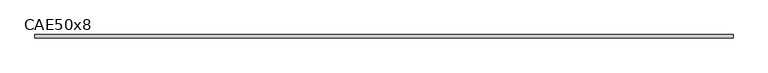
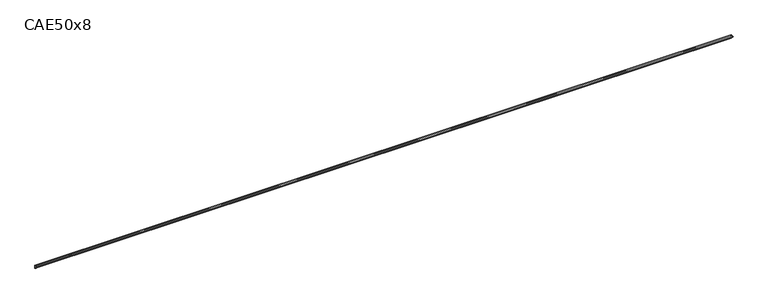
"""IFC4 building model written with IfcOpenShell, lengths in millimetres: beam geometry, L-Cornières : CAE50x8."""

from ifc_helpers import new_model, si_unit, point, frame, frame_2d, origin, place, context, project, spatial, polyline, circle_curve, trimmed, segment, composite_curve, outline, extrude, source, transform, mapped, element, save


def cae50x8_410e40a7(model_context):
    return source(origin(), model_context, "Body", "SweptSolid", [
        extrude(outline(composite_curve([segment(polyline([(15.2, 15.2), (15.2, -34.8)]), True, "CONTINUOUS"), segment(trimmed(circle_curve(frame_2d((15.2, -26.8)), 8.0), [point((15.2, -34.8))], [point((7.2, -26.8))], False, "CARTESIAN"), True, "CONTINUOUS"), segment(polyline([(7.2, -26.8), (7.2, -0.8)]), True, "CONTINUOUS"), segment(trimmed(circle_curve(frame_2d((-0.8, -0.8)), 8.0), [point((7.2, -0.8))], [point((-0.8, 7.2))], True, "CARTESIAN"), True, "CONTINUOUS"), segment(polyline([(-0.8, 7.2), (-26.8, 7.2)]), True, "CONTINUOUS"), segment(trimmed(circle_curve(frame_2d((-26.8, 15.2)), 8.0), [point((-26.8, 7.2))], [point((-34.8, 15.2))], False, "CARTESIAN"), True, "CONTINUOUS"), segment(polyline([(-34.8, 15.2), (15.2, 15.2)]), True, "CONTINUOUS")], self_intersect=False)), frame((-5393.0, 0.0, 0.0), z_axis=(1.0, 0.0, 0.0), x_axis=(0.0, 1.0, 0.0)), (0.0, 0.0, 1.0), 10897.0),
    ])


if __name__ == "__main__":
    model = new_model("IFC4")
    model_context = context("Model", 3, world=origin())
    ifc_project = project(units=[si_unit("LENGTHUNIT", "METRE", prefix="MILLI")], contexts=[model_context])
    site = spatial("IfcSite", under=ifc_project)
    building = spatial("IfcBuilding", under=site)
    placement = place(None, origin())
    cae50x8_shape = cae50x8_410e40a7(model_context)
    element("IfcBeam", 1, ObjectType="L-Cornières : CAE50x8", at=placement, inside=building, context=model_context, shape_type="MappedRepresentation", body=[
        mapped(cae50x8_shape, transform((0.0, 0.0, 0.0), x_axis=(1.0, 0.0, 0.0), y_axis=(0.0, 1.0, 0.0), z_axis=(0.0, 0.0, 1.0))),
    ])
    save(model, "model.ifc")
